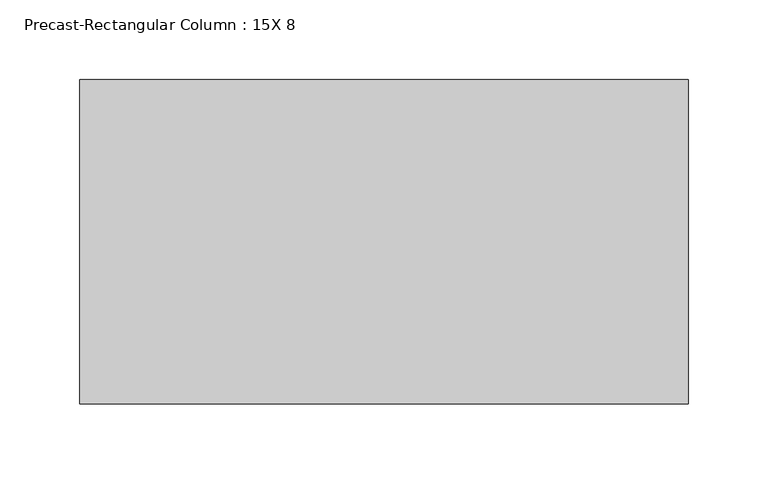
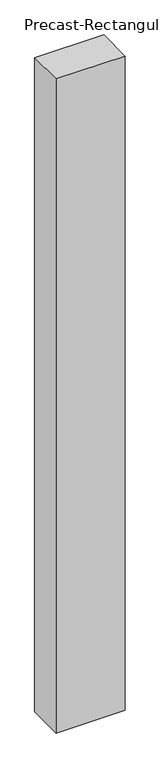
"""IFC4 building model written with IfcOpenShell, lengths in millimetres: column geometry, Precast-Rectangular Column : 15X 8."""

from ifc_helpers import new_model, si_unit, origin, origin_with_axes, place, context, project, spatial, polyline, outline, extrude, source, transform, mapped, element, save


def precast_rectangular_column_15x_8_fcbcd41b(model_context):
    return source(origin(), model_context, "Body", "SweptSolid", [
        extrude(outline(polyline([(190.5, 101.6), (190.5, -101.6), (-190.5, -101.6), (-190.5, 101.6), (190.5, 101.6)])), origin_with_axes(), (0.0, 0.0, 1.0), 3810.0),
    ])


if __name__ == "__main__":
    model = new_model("IFC4")
    model_context = context("Model", 3, world=origin())
    ifc_project = project(units=[si_unit("LENGTHUNIT", "METRE", prefix="MILLI")], contexts=[model_context])
    site = spatial("IfcSite", under=ifc_project)
    building = spatial("IfcBuilding", under=site)
    placement = place(None, origin())
    precast_rectangular_column_15x_8_shape = precast_rectangular_column_15x_8_fcbcd41b(model_context)
    element("IfcColumn", 1, ObjectType="Precast-Rectangular Column : 15X 8", at=placement, inside=building, context=model_context, shape_type="MappedRepresentation", body=[
        mapped(precast_rectangular_column_15x_8_shape, transform((0.0, 0.0, 0.0), x_axis=(1.0, 0.0, 0.0), y_axis=(0.0, 1.0, 0.0), z_axis=(0.0, 0.0, 1.0))),
    ])
    save(model, "model.ifc")
